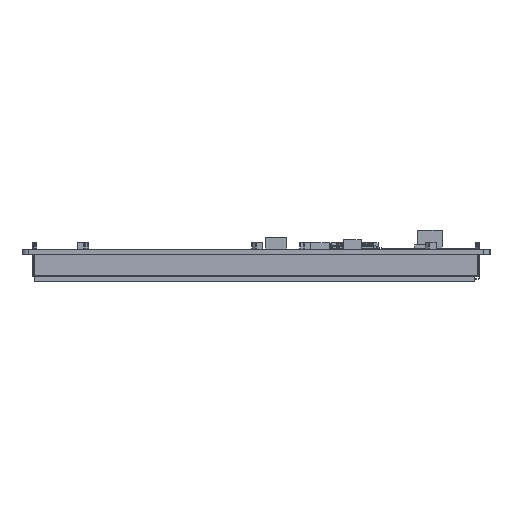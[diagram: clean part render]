
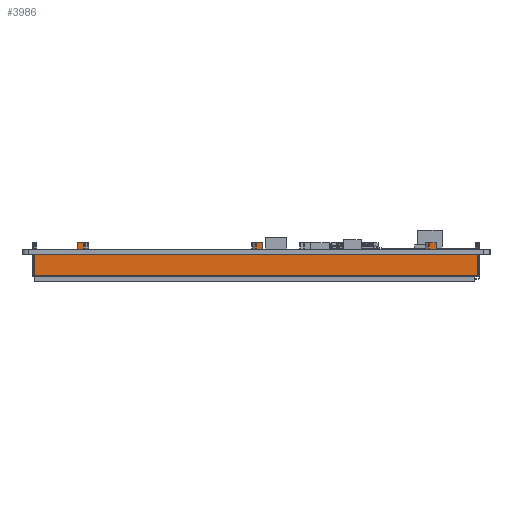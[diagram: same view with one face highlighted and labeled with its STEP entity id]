
A CAD part, left-side view. The second image highlights one B-rep face of the part: STEP entity #3986.
In plain terms, the highlighted planar face has unit normal (-1, 0, 0).
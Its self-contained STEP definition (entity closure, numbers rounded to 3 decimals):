
#3986=ADVANCED_FACE('',(#6520),#5169,.F.);
#5169=PLANE('',#31703);
#6520=FACE_OUTER_BOUND('',#8029,.T.);
#8029=EDGE_LOOP('',(#14843,#14844,#14845,#14846,#14847,#14848,#14849,#14850,
#14851,#14852,#14853,#14854,#14855,#14856,#14857,#14858,#14859,#14860,#14861,
#14862,#14863,#14864));
#14843=ORIENTED_EDGE('',*,*,#22418,.F.);
#14844=ORIENTED_EDGE('',*,*,#22419,.T.);
#14845=ORIENTED_EDGE('',*,*,#22420,.T.);
#14846=ORIENTED_EDGE('',*,*,#22415,.T.);
#14847=ORIENTED_EDGE('',*,*,#22421,.F.);
#14848=ORIENTED_EDGE('',*,*,#22422,.F.);
#14849=ORIENTED_EDGE('',*,*,#22423,.T.);
#14850=ORIENTED_EDGE('',*,*,#22424,.T.);
#14851=ORIENTED_EDGE('',*,*,#22425,.T.);
#14852=ORIENTED_EDGE('',*,*,#22411,.T.);
#14853=ORIENTED_EDGE('',*,*,#22426,.F.);
#14854=ORIENTED_EDGE('',*,*,#22427,.F.);
#14855=ORIENTED_EDGE('',*,*,#22428,.T.);
#14856=ORIENTED_EDGE('',*,*,#22429,.T.);
#14857=ORIENTED_EDGE('',*,*,#22430,.T.);
#14858=ORIENTED_EDGE('',*,*,#22407,.T.);
#14859=ORIENTED_EDGE('',*,*,#22431,.F.);
#14860=ORIENTED_EDGE('',*,*,#22432,.T.);
#14861=ORIENTED_EDGE('',*,*,#22433,.F.);
#14862=ORIENTED_EDGE('',*,*,#22434,.F.);
#14863=ORIENTED_EDGE('',*,*,#22435,.T.);
#14864=ORIENTED_EDGE('',*,*,#22405,.T.);
#18605=VERTEX_POINT('',#46268);
#18607=VERTEX_POINT('',#46272);
#18608=VERTEX_POINT('',#46276);
#18610=VERTEX_POINT('',#46279);
#18612=VERTEX_POINT('',#46285);
#18614=VERTEX_POINT('',#46288);
#18616=VERTEX_POINT('',#46294);
#18618=VERTEX_POINT('',#46297);
#18620=VERTEX_POINT('',#46303);
#18621=VERTEX_POINT('',#46305);
#18622=VERTEX_POINT('',#46308);
#18623=VERTEX_POINT('',#46310);
#18624=VERTEX_POINT('',#46312);
#18625=VERTEX_POINT('',#46314);
#18626=VERTEX_POINT('',#46317);
#18627=VERTEX_POINT('',#46319);
#18628=VERTEX_POINT('',#46321);
#18629=VERTEX_POINT('',#46323);
#18630=VERTEX_POINT('',#46326);
#18631=VERTEX_POINT('',#46328);
#18632=VERTEX_POINT('',#46330);
#18633=VERTEX_POINT('',#46332);
#22405=EDGE_CURVE('',#18605,#18607,#25970,.T.);
#22407=EDGE_CURVE('',#18610,#18608,#25972,.T.);
#22411=EDGE_CURVE('',#18614,#18612,#25976,.T.);
#22415=EDGE_CURVE('',#18618,#18616,#25980,.T.);
#22418=EDGE_CURVE('',#18620,#18607,#25983,.T.);
#22419=EDGE_CURVE('',#18620,#18621,#25984,.T.);
#22420=EDGE_CURVE('',#18621,#18618,#25985,.T.);
#22421=EDGE_CURVE('',#18622,#18616,#25986,.T.);
#22422=EDGE_CURVE('',#18623,#18622,#25987,.T.);
#22423=EDGE_CURVE('',#18623,#18624,#25988,.T.);
#22424=EDGE_CURVE('',#18624,#18625,#25989,.T.);
#22425=EDGE_CURVE('',#18625,#18614,#25990,.T.);
#22426=EDGE_CURVE('',#18626,#18612,#25991,.T.);
#22427=EDGE_CURVE('',#18627,#18626,#25992,.T.);
#22428=EDGE_CURVE('',#18627,#18628,#25993,.T.);
#22429=EDGE_CURVE('',#18628,#18629,#25994,.T.);
#22430=EDGE_CURVE('',#18629,#18610,#25995,.T.);
#22431=EDGE_CURVE('',#18630,#18608,#25996,.T.);
#22432=EDGE_CURVE('',#18630,#18631,#25997,.T.);
#22433=EDGE_CURVE('',#18632,#18631,#25998,.T.);
#22434=EDGE_CURVE('',#18633,#18632,#25999,.T.);
#22435=EDGE_CURVE('',#18633,#18605,#26000,.T.);
#25970=LINE('',#46273,#29375);
#25972=LINE('',#46278,#29377);
#25976=LINE('',#46287,#29381);
#25980=LINE('',#46296,#29385);
#25983=LINE('',#46302,#29388);
#25984=LINE('',#46304,#29389);
#25985=LINE('',#46306,#29390);
#25986=LINE('',#46307,#29391);
#25987=LINE('',#46309,#29392);
#25988=LINE('',#46311,#29393);
#25989=LINE('',#46313,#29394);
#25990=LINE('',#46315,#29395);
#25991=LINE('',#46316,#29396);
#25992=LINE('',#46318,#29397);
#25993=LINE('',#46320,#29398);
#25994=LINE('',#46322,#29399);
#25995=LINE('',#46324,#29400);
#25996=LINE('',#46325,#29401);
#25997=LINE('',#46327,#29402);
#25998=LINE('',#46329,#29403);
#25999=LINE('',#46331,#29404);
#26000=LINE('',#46333,#29405);
#29375=VECTOR('',#38184,1.);
#29377=VECTOR('',#38188,1.);
#29381=VECTOR('',#38194,1.);
#29385=VECTOR('',#38200,1.);
#29388=VECTOR('',#38205,1.);
#29389=VECTOR('',#38206,1.);
#29390=VECTOR('',#38207,1.);
#29391=VECTOR('',#38208,1.);
#29392=VECTOR('',#38209,1.);
#29393=VECTOR('',#38210,1.);
#29394=VECTOR('',#38211,1.);
#29395=VECTOR('',#38212,1.);
#29396=VECTOR('',#38213,1.);
#29397=VECTOR('',#38214,1.);
#29398=VECTOR('',#38215,1.);
#29399=VECTOR('',#38216,1.);
#29400=VECTOR('',#38217,1.);
#29401=VECTOR('',#38218,1.);
#29402=VECTOR('',#38219,1.);
#29403=VECTOR('',#38220,1.);
#29404=VECTOR('',#38221,1.);
#29405=VECTOR('',#38222,1.);
#31703=AXIS2_PLACEMENT_3D('',#46334,#38223,#38224);
#38184=DIRECTION('',(0.,1.,0.));
#38188=DIRECTION('',(0.,1.,0.));
#38194=DIRECTION('',(0.,1.,0.));
#38200=DIRECTION('',(0.,1.,0.));
#38205=DIRECTION('',(0.,0.,1.));
#38206=DIRECTION('',(0.,-1.,0.));
#38207=DIRECTION('',(0.,0.,1.));
#38208=DIRECTION('',(0.,0.,-1.));
#38209=DIRECTION('',(0.,-1.,0.));
#38210=DIRECTION('',(0.,0.,-1.));
#38211=DIRECTION('',(0.,-1.,0.));
#38212=DIRECTION('',(0.,0.,-1.));
#38213=DIRECTION('',(0.,0.,-1.));
#38214=DIRECTION('',(0.,-1.,0.));
#38215=DIRECTION('',(0.,0.,-1.));
#38216=DIRECTION('',(0.,-1.,0.));
#38217=DIRECTION('',(0.,0.,-1.));
#38218=DIRECTION('',(0.,0.,-1.));
#38219=DIRECTION('',(0.,-1.,0.));
#38220=DIRECTION('',(0.,0.,-1.));
#38221=DIRECTION('',(0.,-1.,0.));
#38222=DIRECTION('',(0.,0.,-1.));
#38223=DIRECTION('',(1.,0.,0.));
#38224=DIRECTION('',(0.,-1.,0.));
#46268=CARTESIAN_POINT('',(-84.85,60.795,-1.6));
#46272=CARTESIAN_POINT('',(-84.85,74.48,-1.6));
#46273=CARTESIAN_POINT('',(-84.85,-66.52,-1.6));
#46276=CARTESIAN_POINT('',(-84.85,58.795,-1.6));
#46278=CARTESIAN_POINT('',(-84.85,-66.52,-1.6));
#46279=CARTESIAN_POINT('',(-84.85,3.795,-1.6));
#46285=CARTESIAN_POINT('',(-84.85,1.795,-1.6));
#46287=CARTESIAN_POINT('',(-84.85,-66.52,-1.6));
#46288=CARTESIAN_POINT('',(-84.85,-51.325,-1.6));
#46294=CARTESIAN_POINT('',(-84.85,-53.325,-1.6));
#46296=CARTESIAN_POINT('',(-84.85,-66.52,-1.6));
#46297=CARTESIAN_POINT('',(-84.85,-66.52,-1.6));
#46302=CARTESIAN_POINT('',(-84.85,74.48,-8.8));
#46303=CARTESIAN_POINT('',(-84.85,74.48,-8.4));
#46304=CARTESIAN_POINT('',(-84.85,-66.52,-8.4));
#46305=CARTESIAN_POINT('',(-84.85,-66.52,-8.4));
#46306=CARTESIAN_POINT('',(-84.85,-66.52,-8.8));
#46307=CARTESIAN_POINT('',(-84.85,-53.325,2.));
#46308=CARTESIAN_POINT('',(-84.85,-53.325,2.));
#46309=CARTESIAN_POINT('',(-84.85,-51.243,2.));
#46310=CARTESIAN_POINT('',(-84.85,-51.243,2.));
#46311=CARTESIAN_POINT('',(-84.85,-51.243,2.));
#46312=CARTESIAN_POINT('',(-84.85,-51.243,0.));
#46313=CARTESIAN_POINT('',(-84.85,-51.243,0.));
#46314=CARTESIAN_POINT('',(-84.85,-51.325,0.));
#46315=CARTESIAN_POINT('',(-84.85,-51.325,0.));
#46316=CARTESIAN_POINT('',(-84.85,1.795,2.));
#46317=CARTESIAN_POINT('',(-84.85,1.795,2.));
#46318=CARTESIAN_POINT('',(-84.85,3.877,2.));
#46319=CARTESIAN_POINT('',(-84.85,3.877,2.));
#46320=CARTESIAN_POINT('',(-84.85,3.877,2.));
#46321=CARTESIAN_POINT('',(-84.85,3.877,0.));
#46322=CARTESIAN_POINT('',(-84.85,3.877,0.));
#46323=CARTESIAN_POINT('',(-84.85,3.795,0.));
#46324=CARTESIAN_POINT('',(-84.85,3.795,0.));
#46325=CARTESIAN_POINT('',(-84.85,58.795,0.));
#46326=CARTESIAN_POINT('',(-84.85,58.795,0.));
#46327=CARTESIAN_POINT('',(-84.85,60.795,0.));
#46328=CARTESIAN_POINT('',(-84.85,58.713,0.));
#46329=CARTESIAN_POINT('',(-84.85,58.713,2.));
#46330=CARTESIAN_POINT('',(-84.85,58.713,2.));
#46331=CARTESIAN_POINT('',(-84.85,60.795,2.));
#46332=CARTESIAN_POINT('',(-84.85,60.795,2.));
#46333=CARTESIAN_POINT('',(-84.85,60.795,2.));
#46334=CARTESIAN_POINT('',(-84.85,-66.52,-8.8));
